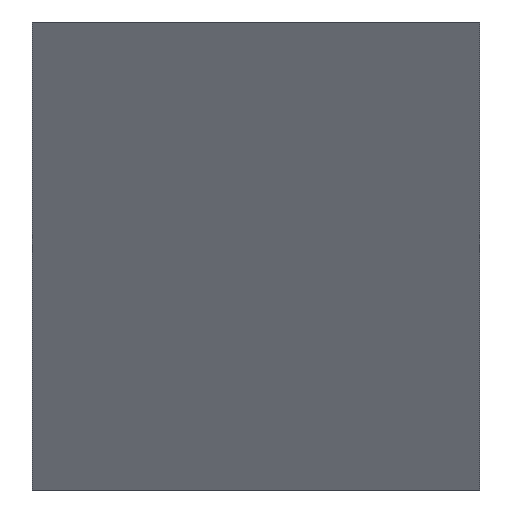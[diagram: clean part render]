
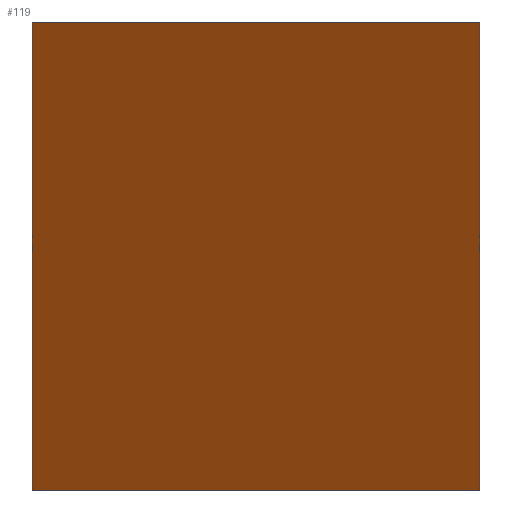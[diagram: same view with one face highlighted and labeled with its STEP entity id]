
A CAD part, left-side view. The second image highlights one B-rep face of the part: STEP entity #119.
In plain terms, the highlighted planar face has unit normal (-0.74, 0.673, 0).
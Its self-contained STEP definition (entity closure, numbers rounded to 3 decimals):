
#21 = EDGE_CURVE('',#22,#24,#26,.T.);
#22 = VERTEX_POINT('',#23);
#23 = CARTESIAN_POINT('',(68.,-130.,21.));
#24 = VERTEX_POINT('',#25);
#25 = CARTESIAN_POINT('',(68.,-130.,44.));
#26 = LINE('',#27,#28);
#27 = CARTESIAN_POINT('',(68.,-130.,21.));
#28 = VECTOR('',#29,1.);
#29 = DIRECTION('',(0.,0.,1.));
#94 = VERTEX_POINT('',#95);
#95 = CARTESIAN_POINT('',(88.,-108.,44.));
#101 = EDGE_CURVE('',#102,#94,#104,.T.);
#102 = VERTEX_POINT('',#103);
#103 = CARTESIAN_POINT('',(88.,-108.,21.));
#104 = LINE('',#105,#106);
#105 = CARTESIAN_POINT('',(88.,-108.,21.));
#106 = VECTOR('',#107,1.);
#107 = DIRECTION('',(0.,0.,1.));
#119 = ADVANCED_FACE('',(#120),#136,.F.);
#120 = FACE_BOUND('',#121,.F.);
#121 = EDGE_LOOP('',(#122,#123,#129,#130));
#122 = ORIENTED_EDGE('',*,*,#101,.T.);
#123 = ORIENTED_EDGE('',*,*,#124,.T.);
#124 = EDGE_CURVE('',#94,#24,#125,.T.);
#125 = LINE('',#126,#127);
#126 = CARTESIAN_POINT('',(88.,-108.,44.));
#127 = VECTOR('',#128,1.);
#128 = DIRECTION('',(-0.673,-0.74,0.));
#129 = ORIENTED_EDGE('',*,*,#21,.F.);
#130 = ORIENTED_EDGE('',*,*,#131,.F.);
#131 = EDGE_CURVE('',#102,#22,#132,.T.);
#132 = LINE('',#133,#134);
#133 = CARTESIAN_POINT('',(88.,-108.,21.));
#134 = VECTOR('',#135,1.);
#135 = DIRECTION('',(-0.673,-0.74,0.));
#136 = PLANE('',#137);
#137 = AXIS2_PLACEMENT_3D('',#138,#139,#140);
#138 = CARTESIAN_POINT('',(88.,-108.,21.));
#139 = DIRECTION('',(0.74,-0.673,0.));
#140 = DIRECTION('',(-0.673,-0.74,0.));
